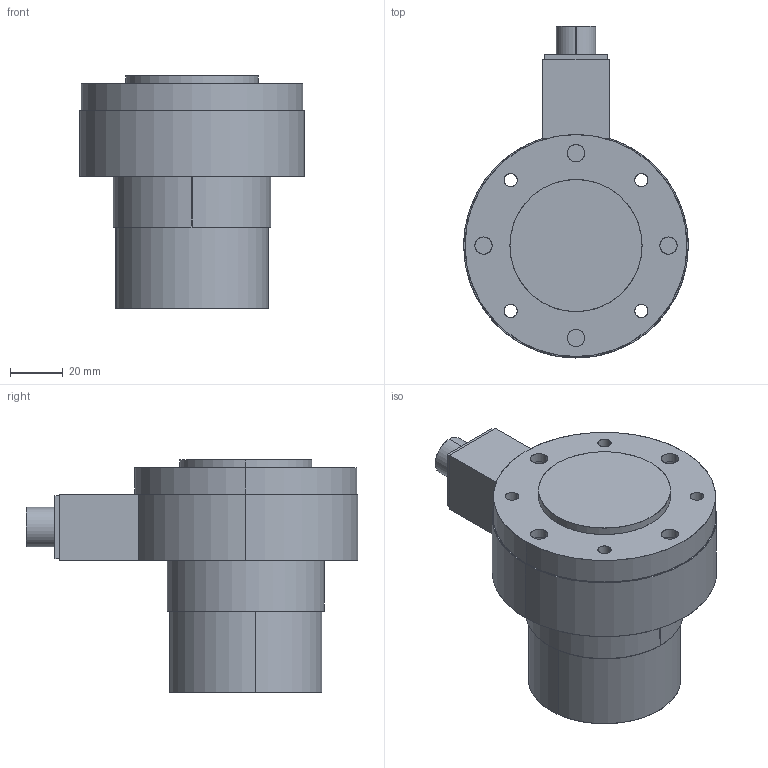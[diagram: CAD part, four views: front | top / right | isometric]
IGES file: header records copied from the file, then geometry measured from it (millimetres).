
Start section: SolidWorks IGES file using analytic representation for surfaces
Global section: file name: C:\Users\daniele.peli\Desktop\TR-N3C-D40-1.IGS; native system: SolidWorks 2015; preprocessor: SolidWorks 2015; author: daniele.peli; date: 160516.150124; units: millimetre
Bounding box: 85 x 125.62 x 88 mm (x, y, z)
Surface area: 63593.3 mm2 (no closed solid volume)
Topology: 0 solids, 0 shells, 89 faces, 2522 edges, 2522 vertices
Faces by surface type: revolution 57, bspline 32
